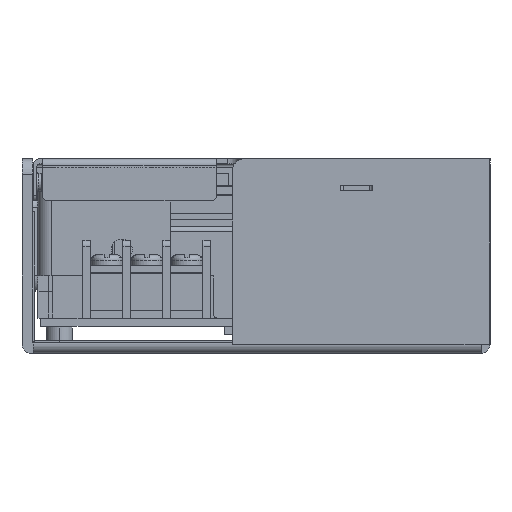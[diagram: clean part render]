
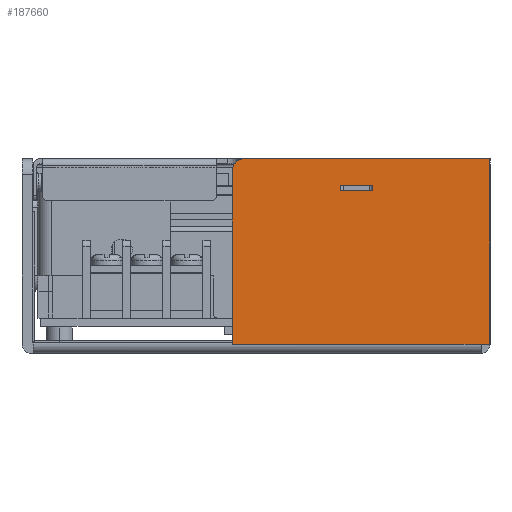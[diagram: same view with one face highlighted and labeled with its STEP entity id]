
A CAD part, left-side view. The second image highlights one B-rep face of the part: STEP entity #187660.
In plain terms, the highlighted planar face has unit normal (-1, 0, 0).
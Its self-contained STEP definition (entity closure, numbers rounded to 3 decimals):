
#175730=CARTESIAN_POINT('',(21.,1.7,0.1));
#175740=VERTEX_POINT('',#175730);
#175770=CARTESIAN_POINT('',(21.,0.,0.1));
#175780=DIRECTION('',(0.,1.,0.));
#175790=VECTOR('',#175780,1.);
#175800=LINE('',#175770,#175790);
#175810=CARTESIAN_POINT('',(21.,0.,0.1));
#175820=VERTEX_POINT('',#175810);
#175830=EDGE_CURVE('',#175820,#175740,#175800,.T.);
#176010=CARTESIAN_POINT('',(21.,0.,39.4));
#176020=DIRECTION('',(0.,0.,-1.));
#176030=VECTOR('',#176020,1.);
#176040=LINE('',#176010,#176030);
#176050=CARTESIAN_POINT('',(21.,0.,35.4));
#176060=VERTEX_POINT('',#176050);
#176070=EDGE_CURVE('',#176060,#175820,#176040,.T.);
#180010=CARTESIAN_POINT('',(21.,22.42,30.4));
#180020=VERTEX_POINT('',#180010);
#180050=CARTESIAN_POINT('',(21.,22.42,0.));
#180060=DIRECTION('',(0.,0.,-1.));
#180070=VECTOR('',#180060,1.);
#180080=LINE('',#180050,#180070);
#180090=CARTESIAN_POINT('',(21.,22.42,29.4));
#180100=VERTEX_POINT('',#180090);
#180110=EDGE_CURVE('',#180020,#180100,#180080,.T.);
#180350=CARTESIAN_POINT('',(21.,28.42,30.4));
#180360=VERTEX_POINT('',#180350);
#180390=CARTESIAN_POINT('',(21.,0.,30.4));
#180400=DIRECTION('',(0.,-1.,0.));
#180410=VECTOR('',#180400,1.);
#180420=LINE('',#180390,#180410);
#180430=EDGE_CURVE('',#180360,#180020,#180420,.T.);
#180590=CARTESIAN_POINT('',(21.,28.42,29.4));
#180600=VERTEX_POINT('',#180590);
#180630=CARTESIAN_POINT('',(21.,28.42,0.));
#180640=DIRECTION('',(0.,0.,1.));
#180650=VECTOR('',#180640,1.);
#180660=LINE('',#180630,#180650);
#180670=EDGE_CURVE('',#180600,#180360,#180660,.T.);
#180800=CARTESIAN_POINT('',(21.,0.,29.4));
#180810=DIRECTION('',(0.,1.,0.));
#180820=VECTOR('',#180810,1.);
#180830=LINE('',#180800,#180820);
#180840=EDGE_CURVE('',#180100,#180600,#180830,.T.);
#187200=CARTESIAN_POINT('',(21.,0.,22.454));
#187210=DIRECTION('',(1.,-0.,0.));
#187220=DIRECTION('',(0.,0.,-1.));
#187230=AXIS2_PLACEMENT_3D('',#187200,#187210,#187220);
#187240=PLANE('',#187230);
#187250=ORIENTED_EDGE('',*,*,#180430,.T.);
#187260=ORIENTED_EDGE('',*,*,#180670,.T.);
#187270=ORIENTED_EDGE('',*,*,#180840,.T.);
#187280=ORIENTED_EDGE('',*,*,#180110,.T.);
#187290=EDGE_LOOP('',(#187280,#187270,#187260,#187250));
#187300=FACE_BOUND('',#187290,.T.);
#187310=CARTESIAN_POINT('',(21.,49.04,0.));
#187320=DIRECTION('',(0.,0.,-1.));
#187330=VECTOR('',#187320,1.);
#187340=LINE('',#187310,#187330);
#187350=CARTESIAN_POINT('',(21.,49.04,32.9));
#187360=VERTEX_POINT('',#187350);
#187370=CARTESIAN_POINT('',(21.,49.04,0.1));
#187380=VERTEX_POINT('',#187370);
#187390=EDGE_CURVE('',#187360,#187380,#187340,.T.);
#187400=ORIENTED_EDGE('',*,*,#187390,.T.);
#187410=CARTESIAN_POINT('',(21.,46.54,32.9));
#187420=DIRECTION('',(1.,0.,0.));
#187430=DIRECTION('',(0.,-1.,0.));
#187440=AXIS2_PLACEMENT_3D('',#187410,#187420,#187430);
#187450=CIRCLE('',#187440,2.5);
#187460=CARTESIAN_POINT('',(21.,46.54,35.4));
#187470=VERTEX_POINT('',#187460);
#187480=EDGE_CURVE('',#187360,#187470,#187450,.T.);
#187490=ORIENTED_EDGE('',*,*,#187480,.F.);
#187500=CARTESIAN_POINT('',(21.,0.,35.4));
#187510=DIRECTION('',(0.,-1.,0.));
#187520=VECTOR('',#187510,1.);
#187530=LINE('',#187500,#187520);
#187540=EDGE_CURVE('',#187470,#176060,#187530,.T.);
#187550=ORIENTED_EDGE('',*,*,#187540,.F.);
#187560=ORIENTED_EDGE('',*,*,#176070,.F.);
#187570=ORIENTED_EDGE('',*,*,#175830,.F.);
#187580=CARTESIAN_POINT('',(21.,0.,0.1));
#187590=DIRECTION('',(0.,1.,0.));
#187600=VECTOR('',#187590,1.);
#187610=LINE('',#187580,#187600);
#187620=EDGE_CURVE('',#175740,#187380,#187610,.T.);
#187630=ORIENTED_EDGE('',*,*,#187620,.F.);
#187640=EDGE_LOOP('',(#187630,#187570,#187560,#187550,#187490,#187400));
#187650=FACE_OUTER_BOUND('',#187640,.T.);
#187660=ADVANCED_FACE('',(#187300,#187650),#187240,.F.);
